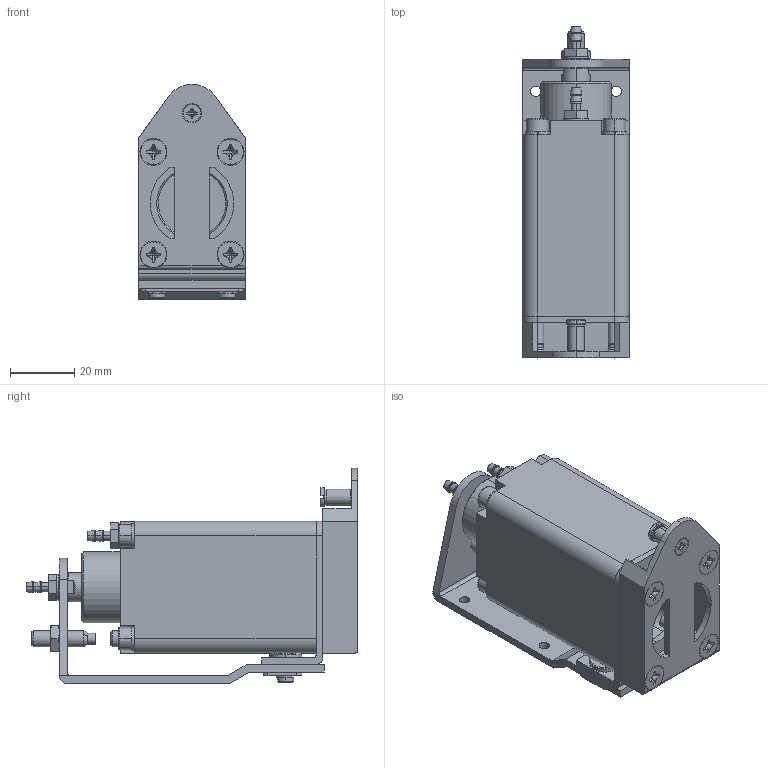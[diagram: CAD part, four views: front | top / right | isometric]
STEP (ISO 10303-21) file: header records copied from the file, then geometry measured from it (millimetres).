
FILE_DESCRIPTION (( 'STEP AP214' ), '1' );
FILE_NAME ('GT-NY15.STEP', '2019-11-13T05:59:46', ( '微软用户' ), ( '微软中国' ), 'SwSTEP 2.0', 'SolidWorks 2016', '' );
FILE_SCHEMA (( 'AUTOMOTIVE_DESIGN' ));
Length unit declared in the file: millimetre
Products named in the file (1): GT-NY15
Bounding box: 33 x 103.3 x 67 mm (x, y, z)
Surface area: 35885.9 mm2 (no closed solid volume)
Topology: 0 solids, 112 shells, 858 faces, 2345 edges, 1652 vertices
Faces by surface type: plane 393, cylinder 299, bspline 98, cone 52, torus 16
Full cylindrical faces by diameter (mm): 2 x1
Entity records: 39400 total; most frequent: CARTESIAN_POINT 13424, ORIENTED_EDGE 4219, DIRECTION 4125, EDGE_CURVE 2337, VERTEX_POINT 1652, AXIS2_PLACEMENT_3D 1566, VECTOR 993, LINE 993
